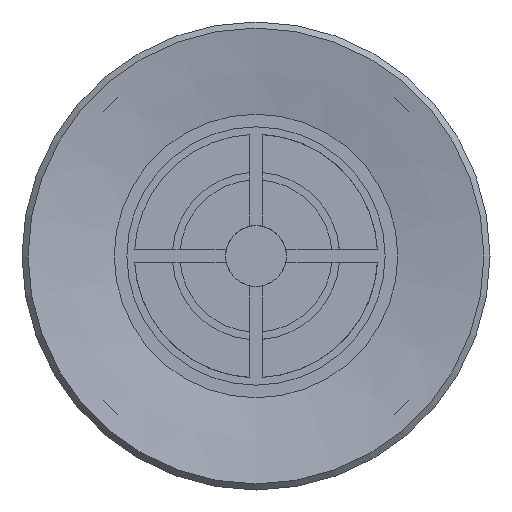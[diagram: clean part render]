
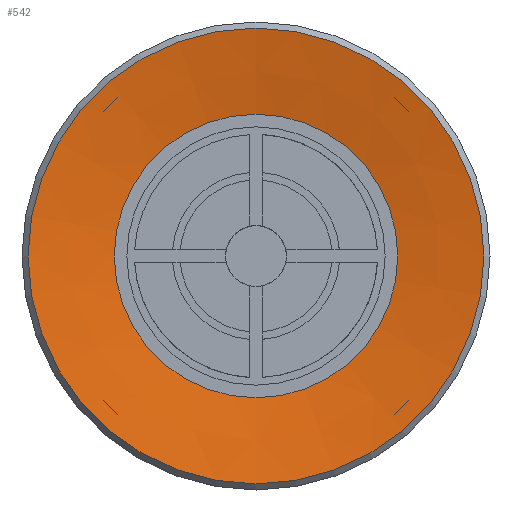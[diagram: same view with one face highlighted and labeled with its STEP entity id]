
A CAD part, front view. The second image highlights one B-rep face of the part: STEP entity #542.
In plain terms, the highlighted conical face has half-angle 80 degrees and reference radius 4.664 mm.
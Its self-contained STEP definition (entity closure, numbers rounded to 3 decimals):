
#542=ADVANCED_FACE('',(#899,#900),#901,.F.);
#899=FACE_BOUND('',#1272,.T.);
#900=FACE_OUTER_BOUND('',#1273,.T.);
#901=CONICAL_SURFACE('',#1274,4.664,1.396);
#1272=EDGE_LOOP('',(#2321));
#1273=EDGE_LOOP('',(#2322));
#1274=AXIS2_PLACEMENT_3D('',#2323,#2324,#2325);
#2321=ORIENTED_EDGE('',*,*,#2715,.F.);
#2322=ORIENTED_EDGE('',*,*,#2699,.T.);
#2323=CARTESIAN_POINT('',(0.0,0.5,0.0));
#2324=DIRECTION('',(-0.0,-1.0,0.));
#2325=DIRECTION('',(0.0,0.,-1.0));
#2699=EDGE_CURVE('',#3217,#3217,#3218,.T.);
#2715=EDGE_CURVE('',#3240,#3240,#3241,.T.);
#3217=VERTEX_POINT('',#4299);
#3218=CIRCLE('',#4300,7.5);
#3240=VERTEX_POINT('',#4327);
#3241=CIRCLE('',#4328,4.664);
#4299=CARTESIAN_POINT('',(0.0,0.,-7.5));
#4300=AXIS2_PLACEMENT_3D('',#4753,#4754,#4755);
#4327=CARTESIAN_POINT('',(0.0,0.5,-4.664));
#4328=AXIS2_PLACEMENT_3D('',#4791,#4792,#4793);
#4753=CARTESIAN_POINT('',(0.0,0.0,0.0));
#4754=DIRECTION('',(0.0,-1.0,0.));
#4755=DIRECTION('',(0.0,0.,-1.0));
#4791=CARTESIAN_POINT('',(0.0,0.5,0.0));
#4792=DIRECTION('',(0.0,-1.0,0.));
#4793=DIRECTION('',(0.0,0.,-1.0));
